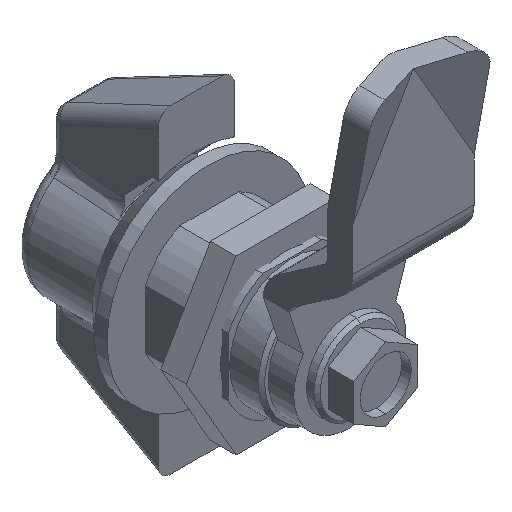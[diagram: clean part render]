
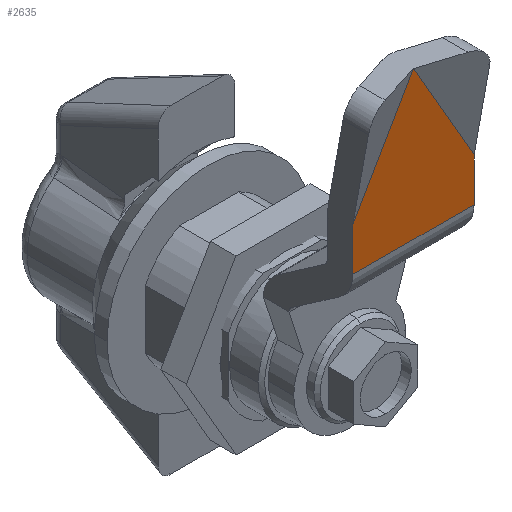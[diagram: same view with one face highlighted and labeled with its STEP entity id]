
A CAD part, isometric view. The second image highlights one B-rep face of the part: STEP entity #2635.
In plain terms, the highlighted planar face has unit normal (0, -1, 0).
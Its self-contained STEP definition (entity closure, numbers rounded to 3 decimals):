
#162 = ORIENTED_EDGE ( 'NONE', *, *, #163, .T. ) ;
#163 = EDGE_CURVE ( 'NONE', #949, #3031, #5239, .T. ) ;
#295 = VECTOR ( 'NONE', #2897, 1000. ) ;
#430 = DIRECTION ( 'NONE',  ( 1., 0., 0. ) ) ;
#725 = ORIENTED_EDGE ( 'NONE', *, *, #5926, .T. ) ;
#735 = VECTOR ( 'NONE', #430, 1000. ) ;
#748 = VECTOR ( 'NONE', #2149, 1000. ) ;
#949 = VERTEX_POINT ( 'NONE', #2121 ) ;
#959 = CARTESIAN_POINT ( 'NONE',  ( -45., -10., 0. ) ) ;
#1070 = DIRECTION ( 'NONE',  ( 0., 1., 0. ) ) ;
#1316 = DIRECTION ( 'NONE',  ( -1., 0., 0. ) ) ;
#1438 = VERTEX_POINT ( 'NONE', #2232 ) ;
#1472 = CARTESIAN_POINT ( 'NONE',  ( -21.3, -10., 26.17 ) ) ;
#1616 = AXIS2_PLACEMENT_3D ( 'NONE', #1472, #1070, #1316 ) ;
#1743 = LINE ( 'NONE', #4046, #748 ) ;
#1884 = LINE ( 'NONE', #3736, #2000 ) ;
#2000 = VECTOR ( 'NONE', #3282, 1000. ) ;
#2121 = CARTESIAN_POINT ( 'NONE',  ( -28.546, -10., 9.5 ) ) ;
#2149 = DIRECTION ( 'NONE',  ( 0., 0., 1. ) ) ;
#2160 = CARTESIAN_POINT ( 'NONE',  ( -28.546, -10., -9.5 ) ) ;
#2187 = EDGE_LOOP ( 'NONE', ( #4757, #725, #2704, #162, #5205 ) ) ;
#2232 = CARTESIAN_POINT ( 'NONE',  ( -21.822, -10., 9.5 ) ) ;
#2635 = ADVANCED_FACE ( 'NONE', ( #3391 ), #5268, .F. ) ;
#2704 = ORIENTED_EDGE ( 'NONE', *, *, #4958, .F. ) ;
#2754 = CARTESIAN_POINT ( 'NONE',  ( -21.822, -10., -9.5 ) ) ;
#2897 = DIRECTION ( 'NONE',  ( -0.866, 0., -0.5 ) ) ;
#2994 = VERTEX_POINT ( 'NONE', #2754 ) ;
#3023 = EDGE_CURVE ( 'NONE', #4580, #2994, #1884, .T. ) ;
#3031 = VERTEX_POINT ( 'NONE', #959 ) ;
#3112 = CARTESIAN_POINT ( 'NONE',  ( -11.25, -10., -19.486 ) ) ;
#3144 = EDGE_CURVE ( 'NONE', #3031, #4580, #4136, .T. ) ;
#3282 = DIRECTION ( 'NONE',  ( 1., 0., 0. ) ) ;
#3307 = CARTESIAN_POINT ( 'NONE',  ( -21.3, -10., 9.5 ) ) ;
#3391 = FACE_OUTER_BOUND ( 'NONE', #2187, .T. ) ;
#3647 = LINE ( 'NONE', #3307, #735 ) ;
#3736 = CARTESIAN_POINT ( 'NONE',  ( -21.3, -10., -9.5 ) ) ;
#4046 = CARTESIAN_POINT ( 'NONE',  ( -21.822, -10., 26.17 ) ) ;
#4136 = LINE ( 'NONE', #3112, #4535 ) ;
#4535 = VECTOR ( 'NONE', #4628, 1000. ) ;
#4580 = VERTEX_POINT ( 'NONE', #2160 ) ;
#4628 = DIRECTION ( 'NONE',  ( 0.866, 0., -0.5 ) ) ;
#4712 = CARTESIAN_POINT ( 'NONE',  ( -11.25, -10., 19.486 ) ) ;
#4757 = ORIENTED_EDGE ( 'NONE', *, *, #3023, .T. ) ;
#4958 = EDGE_CURVE ( 'NONE', #949, #1438, #3647, .T. ) ;
#5205 = ORIENTED_EDGE ( 'NONE', *, *, #3144, .T. ) ;
#5239 = LINE ( 'NONE', #4712, #295 ) ;
#5268 = PLANE ( 'NONE',  #1616 ) ;
#5926 = EDGE_CURVE ( 'NONE', #2994, #1438, #1743, .T. ) ;
